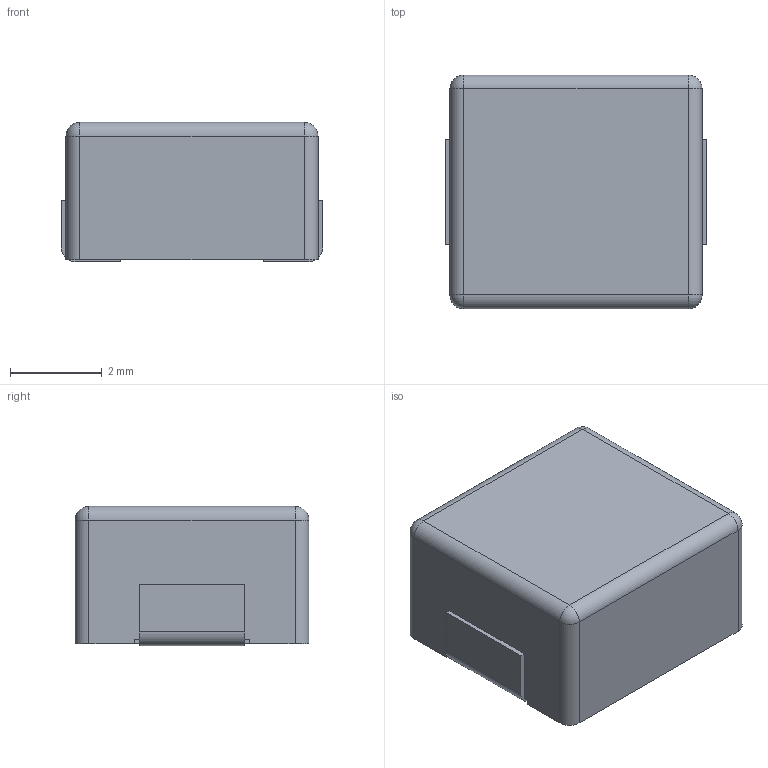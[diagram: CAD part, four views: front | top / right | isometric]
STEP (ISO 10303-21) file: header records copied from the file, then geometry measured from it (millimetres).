
FILE_DESCRIPTION (( 'STEP AP214' ), '1' );
FILE_NAME ('IND-SMD_L5.7-W5.1.step', '2022-07-09T00:33:57', ( '' ), ( '' ), 'SwSTEP 2.0', 'SolidWorks 2020', '' );
FILE_SCHEMA (( 'AUTOMOTIVE_DESIGN' ));
Length unit declared in the file: millimetre
Products named in the file (1): IND-SMD_L5.7-W5.1
Bounding box: 5.7 x 5.1 x 3.04 mm (x, y, z)
Volume: 84.1 mm3; surface area: 119.7 mm2
Topology: 1 solids, 1 shells, 324 faces, 880 edges, 580 vertices
Faces by surface type: plane 196, bspline 114, cylinder 10, sphere 4
Entity records: 14106 total; most frequent: CARTESIAN_POINT 4143, ORIENTED_EDGE 1752, DIRECTION 1086, EDGE_CURVE 876, VECTOR 624, LINE 624, VERTEX_POINT 580, EDGE_LOOP 350
